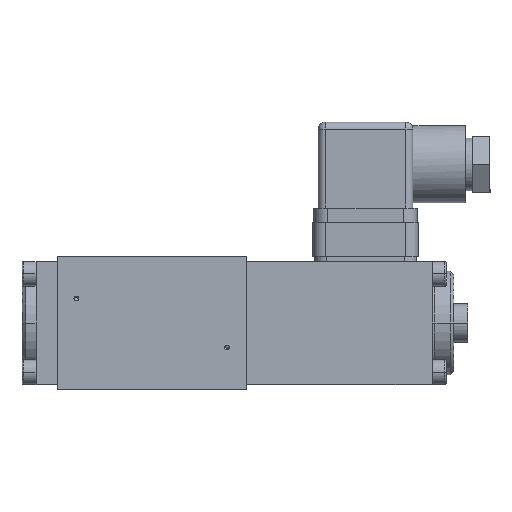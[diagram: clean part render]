
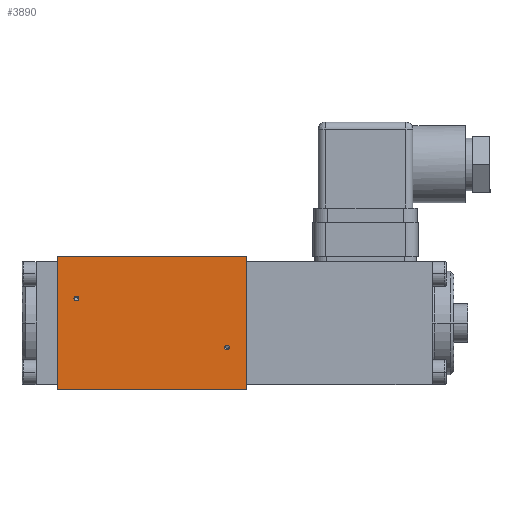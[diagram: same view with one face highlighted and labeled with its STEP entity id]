
A CAD part, top view. The second image highlights one B-rep face of the part: STEP entity #3890.
In plain terms, the highlighted planar face has unit normal (0, 0, 1).
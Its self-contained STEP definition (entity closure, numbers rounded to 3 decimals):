
#116 = LINE ( 'NONE', #27439, #28006 ) ;
#160 = CIRCLE ( 'NONE', #12832, 0.7 ) ;
#430 = CARTESIAN_POINT ( 'NONE',  ( 4.8, 7., 19. ) ) ;
#935 = AXIS2_PLACEMENT_3D ( 'NONE', #23450, #23404, #23368 ) ;
#1406 = EDGE_CURVE ( 'NONE', #19444, #34123, #5368, .T. ) ;
#2460 = VERTEX_POINT ( 'NONE', #16300 ) ;
#3335 = AXIS2_PLACEMENT_3D ( 'NONE', #34756, #34563, #30807 ) ;
#3763 = FACE_OUTER_BOUND ( 'NONE', #22182, .T. ) ;
#3865 = FACE_BOUND ( 'NONE', #17687, .T. ) ;
#3890 = ADVANCED_FACE ( 'NONE', ( #3865, #25209, #3763 ), #30786, .F. ) ;
#4229 = EDGE_CURVE ( 'NONE', #11044, #2460, #15518, .T. ) ;
#4949 = DIRECTION ( 'NONE',  ( 1., 0., 0. ) ) ;
#4987 = DIRECTION ( 'NONE',  ( 0., 0., 1. ) ) ;
#4995 = CARTESIAN_POINT ( 'NONE',  ( 5.5, 7., 19. ) ) ;
#5368 = CIRCLE ( 'NONE', #3335, 0.7 ) ;
#6299 = ORIENTED_EDGE ( 'NONE', *, *, #12887, .F. ) ;
#7293 = LINE ( 'NONE', #15642, #21480 ) ;
#8036 = EDGE_CURVE ( 'NONE', #2460, #11044, #12334, .T. ) ;
#9513 = CARTESIAN_POINT ( 'NONE',  ( 0., 19., 19. ) ) ;
#9728 = VECTOR ( 'NONE', #10351, 1000. ) ;
#10351 = DIRECTION ( 'NONE',  ( -1., 0., 0. ) ) ;
#10358 = CARTESIAN_POINT ( 'NONE',  ( 54., 19., 19. ) ) ;
#11044 = VERTEX_POINT ( 'NONE', #32808 ) ;
#11162 = EDGE_CURVE ( 'NONE', #29989, #29323, #7293, .T. ) ;
#11176 = EDGE_CURVE ( 'NONE', #25267, #14582, #20616, .T. ) ;
#12334 = CIRCLE ( 'NONE', #19173, 0.7 ) ;
#12832 = AXIS2_PLACEMENT_3D ( 'NONE', #4995, #4987, #4949 ) ;
#12887 = EDGE_CURVE ( 'NONE', #14582, #29323, #116, .T. ) ;
#13576 = VECTOR ( 'NONE', #14487, 1000. ) ;
#14487 = DIRECTION ( 'NONE',  ( 0., -1., 0. ) ) ;
#14582 = VERTEX_POINT ( 'NONE', #22205 ) ;
#14771 = CARTESIAN_POINT ( 'NONE',  ( 54., 19., 19. ) ) ;
#15013 = CARTESIAN_POINT ( 'NONE',  ( 54., 19., 19. ) ) ;
#15416 = EDGE_CURVE ( 'NONE', #25267, #29989, #23940, .T. ) ;
#15518 = CIRCLE ( 'NONE', #935, 0.7 ) ;
#15642 = CARTESIAN_POINT ( 'NONE',  ( 0., 19., 19. ) ) ;
#15831 = EDGE_CURVE ( 'NONE', #34123, #19444, #160, .T. ) ;
#16300 = CARTESIAN_POINT ( 'NONE',  ( 49.2, -7., 19. ) ) ;
#17687 = EDGE_LOOP ( 'NONE', ( #27654, #24805 ) ) ;
#19110 = ORIENTED_EDGE ( 'NONE', *, *, #11162, .T. ) ;
#19173 = AXIS2_PLACEMENT_3D ( 'NONE', #24768, #24444, #24365 ) ;
#19444 = VERTEX_POINT ( 'NONE', #29756 ) ;
#19660 = ORIENTED_EDGE ( 'NONE', *, *, #15416, .T. ) ;
#20225 = EDGE_LOOP ( 'NONE', ( #34943, #27859 ) ) ;
#20616 = LINE ( 'NONE', #15013, #13576 ) ;
#21480 = VECTOR ( 'NONE', #25150, 1000. ) ;
#22182 = EDGE_LOOP ( 'NONE', ( #19110, #6299, #32970, #19660 ) ) ;
#22205 = CARTESIAN_POINT ( 'NONE',  ( 54., -19., 19. ) ) ;
#23368 = DIRECTION ( 'NONE',  ( 1., 0., 0. ) ) ;
#23404 = DIRECTION ( 'NONE',  ( 0., 0., 1. ) ) ;
#23450 = CARTESIAN_POINT ( 'NONE',  ( 48.5, -7., 19. ) ) ;
#23940 = LINE ( 'NONE', #10358, #9728 ) ;
#24365 = DIRECTION ( 'NONE',  ( 1., 0., 0. ) ) ;
#24444 = DIRECTION ( 'NONE',  ( 0., 0., 1. ) ) ;
#24544 = CARTESIAN_POINT ( 'NONE',  ( 0., -19., 19. ) ) ;
#24768 = CARTESIAN_POINT ( 'NONE',  ( 48.5, -7., 19. ) ) ;
#24805 = ORIENTED_EDGE ( 'NONE', *, *, #15831, .F. ) ;
#25150 = DIRECTION ( 'NONE',  ( 0., -1., 0. ) ) ;
#25209 = FACE_BOUND ( 'NONE', #20225, .T. ) ;
#25267 = VERTEX_POINT ( 'NONE', #14771 ) ;
#26200 = DIRECTION ( 'NONE',  ( 0., 1., 0. ) ) ;
#26278 = DIRECTION ( 'NONE',  ( 0., 0., -1. ) ) ;
#26364 = CARTESIAN_POINT ( 'NONE',  ( 54., 19., 19. ) ) ;
#26376 = DIRECTION ( 'NONE',  ( -1., 0., 0. ) ) ;
#27439 = CARTESIAN_POINT ( 'NONE',  ( 54., -19., 19. ) ) ;
#27654 = ORIENTED_EDGE ( 'NONE', *, *, #1406, .F. ) ;
#27859 = ORIENTED_EDGE ( 'NONE', *, *, #4229, .F. ) ;
#28006 = VECTOR ( 'NONE', #26376, 1000. ) ;
#29323 = VERTEX_POINT ( 'NONE', #24544 ) ;
#29756 = CARTESIAN_POINT ( 'NONE',  ( 6.2, 7., 19. ) ) ;
#29895 = AXIS2_PLACEMENT_3D ( 'NONE', #26364, #26278, #26200 ) ;
#29989 = VERTEX_POINT ( 'NONE', #9513 ) ;
#30786 = PLANE ( 'NONE',  #29895 ) ;
#30807 = DIRECTION ( 'NONE',  ( 1., 0., 0. ) ) ;
#32808 = CARTESIAN_POINT ( 'NONE',  ( 47.8, -7., 19. ) ) ;
#32970 = ORIENTED_EDGE ( 'NONE', *, *, #11176, .F. ) ;
#34123 = VERTEX_POINT ( 'NONE', #430 ) ;
#34563 = DIRECTION ( 'NONE',  ( 0., 0., 1. ) ) ;
#34756 = CARTESIAN_POINT ( 'NONE',  ( 5.5, 7., 19. ) ) ;
#34943 = ORIENTED_EDGE ( 'NONE', *, *, #8036, .F. ) ;
